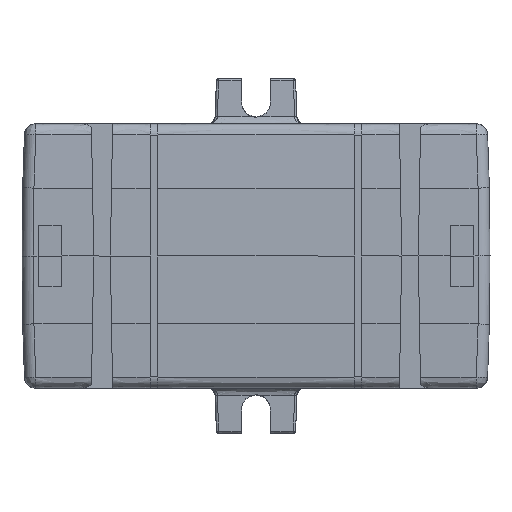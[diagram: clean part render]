
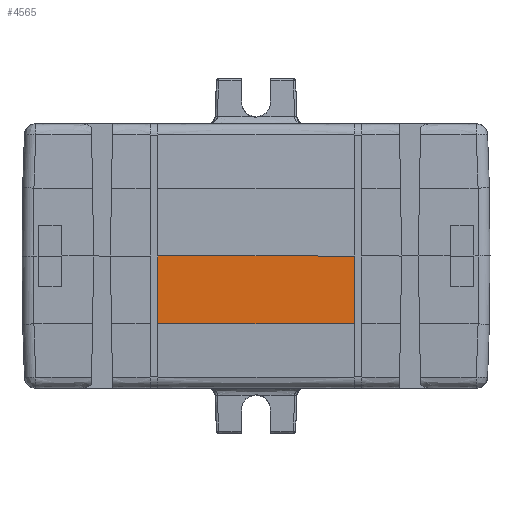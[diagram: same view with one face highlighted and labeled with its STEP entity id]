
A CAD part, front view. The second image highlights one B-rep face of the part: STEP entity #4565.
In plain terms, the highlighted planar face has unit normal (0, -1, -0.009).
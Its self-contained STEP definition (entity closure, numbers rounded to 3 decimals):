
#2780 = EDGE_CURVE ( 'NONE', #27703, #4020, #27698, .T. ) ;
#3251 = CARTESIAN_POINT ( 'NONE',  ( 13., -39., 0. ) ) ;
#4020 = VERTEX_POINT ( 'NONE', #49820 ) ;
#4565 = ADVANCED_FACE ( 'NONE', ( #28040 ), #12209, .F. ) ;
#5503 = DIRECTION ( 'NONE',  ( 0., 0.009, -1. ) ) ;
#6045 = LINE ( 'NONE', #40054, #44480 ) ;
#12209 = PLANE ( 'NONE',  #22194 ) ;
#17242 = EDGE_LOOP ( 'NONE', ( #22430, #33031, #44093, #47227 ) ) ;
#17825 = VERTEX_POINT ( 'NONE', #18980 ) ;
#18460 = VECTOR ( 'NONE', #32618, 1000. ) ;
#18980 = CARTESIAN_POINT ( 'NONE',  ( 13., -38.921, -9. ) ) ;
#20091 = CARTESIAN_POINT ( 'NONE',  ( 0., -39., 0. ) ) ;
#22194 = AXIS2_PLACEMENT_3D ( 'NONE', #3251, #48720, #53324 ) ;
#22430 = ORIENTED_EDGE ( 'NONE', *, *, #2780, .F. ) ;
#23379 = LINE ( 'NONE', #20091, #18460 ) ;
#27284 = VECTOR ( 'NONE', #5503, 1000. ) ;
#27698 = LINE ( 'NONE', #52981, #36855 ) ;
#27703 = VERTEX_POINT ( 'NONE', #51057 ) ;
#28040 = FACE_OUTER_BOUND ( 'NONE', #17242, .T. ) ;
#31007 = EDGE_CURVE ( 'NONE', #17825, #27703, #6045, .T. ) ;
#31893 = DIRECTION ( 'NONE',  ( -1., 0., 0. ) ) ;
#32248 = EDGE_CURVE ( 'NONE', #4020, #50767, #23379, .T. ) ;
#32618 = DIRECTION ( 'NONE',  ( 1., 0., 0. ) ) ;
#33031 = ORIENTED_EDGE ( 'NONE', *, *, #31007, .F. ) ;
#34346 = LINE ( 'NONE', #50953, #27284 ) ;
#35121 = EDGE_CURVE ( 'NONE', #50767, #17825, #34346, .T. ) ;
#36372 = DIRECTION ( 'NONE',  ( 0., -0.009, 1. ) ) ;
#36855 = VECTOR ( 'NONE', #36372, 1000. ) ;
#40054 = CARTESIAN_POINT ( 'NONE',  ( 0., -38.921, -9. ) ) ;
#44093 = ORIENTED_EDGE ( 'NONE', *, *, #35121, .F. ) ;
#44480 = VECTOR ( 'NONE', #31893, 1000. ) ;
#45932 = CARTESIAN_POINT ( 'NONE',  ( 13., -39., 0. ) ) ;
#47227 = ORIENTED_EDGE ( 'NONE', *, *, #32248, .F. ) ;
#48720 = DIRECTION ( 'NONE',  ( 0., 1., 0.009 ) ) ;
#49820 = CARTESIAN_POINT ( 'NONE',  ( -13., -39., 0. ) ) ;
#50767 = VERTEX_POINT ( 'NONE', #45932 ) ;
#50953 = CARTESIAN_POINT ( 'NONE',  ( 13., -39., 0. ) ) ;
#51057 = CARTESIAN_POINT ( 'NONE',  ( -13., -38.921, -9. ) ) ;
#52981 = CARTESIAN_POINT ( 'NONE',  ( -13., -38.921, -9. ) ) ;
#53324 = DIRECTION ( 'NONE',  ( 0., 0.009, -1. ) ) ;
